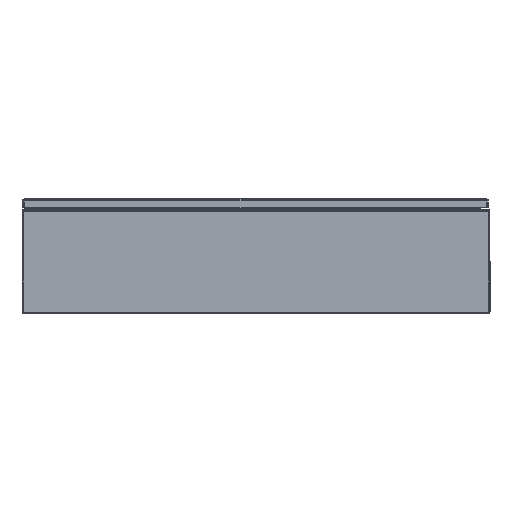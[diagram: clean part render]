
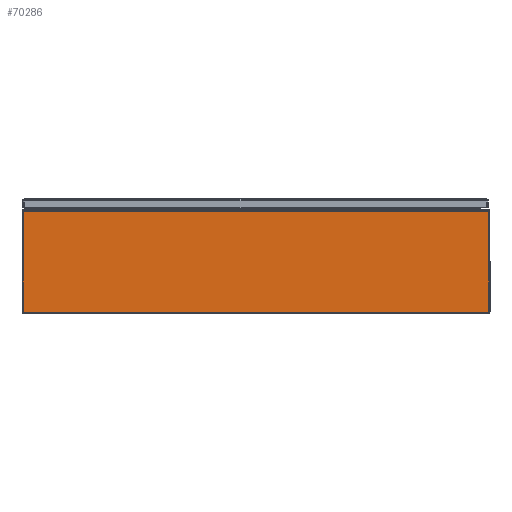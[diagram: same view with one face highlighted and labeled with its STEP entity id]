
A CAD part, front view. The second image highlights one B-rep face of the part: STEP entity #70286.
In plain terms, the highlighted planar face has unit normal (0, -1, 0).
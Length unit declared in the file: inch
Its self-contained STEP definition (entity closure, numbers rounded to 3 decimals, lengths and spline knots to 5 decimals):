
#2257 = CARTESIAN_POINT ( 'NONE',  ( 18., 0., 7.838 ) ) ;
#4392 = CARTESIAN_POINT ( 'NONE',  ( 18., 0., 0.08 ) ) ;
#4394 = DIRECTION ( 'NONE',  ( -1., 0., 0. ) ) ;
#4397 = DIRECTION ( 'NONE',  ( -1., 0., 0. ) ) ;
#6425 = CARTESIAN_POINT ( 'NONE',  ( 17.921, 0., 7.838 ) ) ;
#6430 = CARTESIAN_POINT ( 'NONE',  ( -17.921, 0., 7.838 ) ) ;
#6438 = CARTESIAN_POINT ( 'NONE',  ( 17.921, 0., 0.08 ) ) ;
#6547 = CARTESIAN_POINT ( 'NONE',  ( -17.921, 0., 0.08 ) ) ;
#10100 = AXIS2_PLACEMENT_3D ( 'NONE', #66186, #66191, #66192 ) ;
#18582 = EDGE_LOOP ( 'NONE', ( #69257, #69258, #69259, #69260 ) ) ;
#21340 = DIRECTION ( 'NONE',  ( 0., 0., -1. ) ) ;
#21443 = CARTESIAN_POINT ( 'NONE',  ( -17.921, 0., 8.569 ) ) ;
#21480 = DIRECTION ( 'NONE',  ( 0., 0., -1. ) ) ;
#21512 = CARTESIAN_POINT ( 'NONE',  ( 17.921, 0., 0.08 ) ) ;
#29510 = VERTEX_POINT ( 'NONE', #6547 ) ;
#29557 = VERTEX_POINT ( 'NONE', #6438 ) ;
#29561 = VERTEX_POINT ( 'NONE', #6430 ) ;
#29564 = VERTEX_POINT ( 'NONE', #6425 ) ;
#50798 = FACE_OUTER_BOUND ( 'NONE', #18582, .T. ) ;
#58735 = EDGE_CURVE ( 'NONE', #29564, #29561, #71853, .T. ) ;
#58737 = EDGE_CURVE ( 'NONE', #29564, #29557, #71860, .T. ) ;
#58738 = EDGE_CURVE ( 'NONE', #29557, #29510, #71857, .T. ) ;
#58739 = EDGE_CURVE ( 'NONE', #29561, #29510, #71850, .T. ) ;
#66186 = CARTESIAN_POINT ( 'NONE',  ( 18., 0., 0.08 ) ) ;
#66188 = PLANE ( 'NONE',  #10100 ) ;
#66191 = DIRECTION ( 'NONE',  ( 0., -1., 0. ) ) ;
#66192 = DIRECTION ( 'NONE',  ( 0., 0., -1. ) ) ;
#69257 = ORIENTED_EDGE ( 'NONE', *, *, #58738, .F. ) ;
#69258 = ORIENTED_EDGE ( 'NONE', *, *, #58737, .F. ) ;
#69259 = ORIENTED_EDGE ( 'NONE', *, *, #58735, .T. ) ;
#69260 = ORIENTED_EDGE ( 'NONE', *, *, #58739, .T. ) ;
#70286 = ADVANCED_FACE ( 'NONE', ( #50798 ), #66188, .T. ) ;
#71837 = VECTOR ( 'NONE', #21480, 39.37008 ) ;
#71843 = VECTOR ( 'NONE', #4397, 39.37008 ) ;
#71850 = LINE ( 'NONE', #21443, #71871 ) ;
#71853 = LINE ( 'NONE', #2257, #71843 ) ;
#71857 = LINE ( 'NONE', #4392, #71865 ) ;
#71860 = LINE ( 'NONE', #21512, #71837 ) ;
#71865 = VECTOR ( 'NONE', #4394, 39.37008 ) ;
#71871 = VECTOR ( 'NONE', #21340, 39.37008 ) ;
